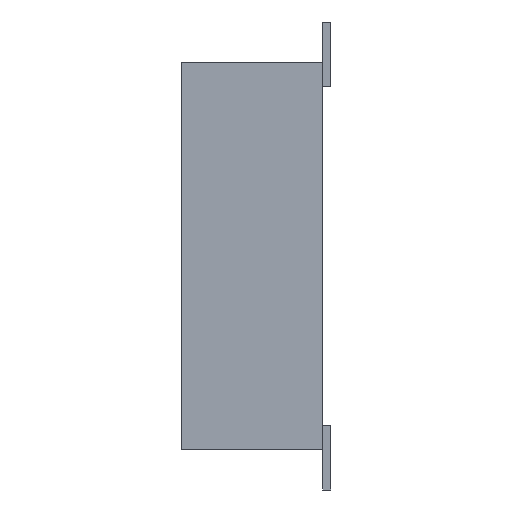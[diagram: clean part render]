
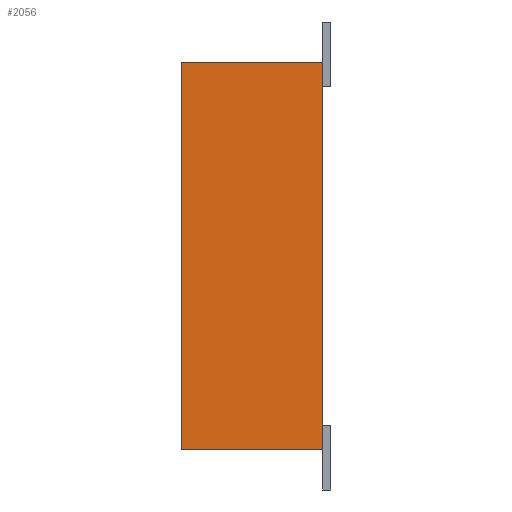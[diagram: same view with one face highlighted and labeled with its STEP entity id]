
A CAD part, left-side view. The second image highlights one B-rep face of the part: STEP entity #2056.
In plain terms, the highlighted planar face has unit normal (-1, 0, 0).
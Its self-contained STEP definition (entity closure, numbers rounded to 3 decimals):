
#322=DIRECTION('',(0.,0.,1.));
#323=VECTOR('',#322,4.8);
#324=CARTESIAN_POINT('',(-4.,0.,-2.4));
#325=LINE('',#324,#323);
#378=DIRECTION('',(0.,1.,0.));
#379=VECTOR('',#378,1.75);
#380=CARTESIAN_POINT('',(-4.,0.,2.4));
#381=LINE('',#380,#379);
#418=DIRECTION('',(0.,1.,0.));
#419=VECTOR('',#418,1.75);
#420=CARTESIAN_POINT('',(-4.,0.,-2.4));
#421=LINE('',#420,#419);
#1266=DIRECTION('',(0.,0.,1.));
#1267=VECTOR('',#1266,4.8);
#1268=CARTESIAN_POINT('',(-4.,1.75,-2.4));
#1269=LINE('',#1268,#1267);
#1334=CARTESIAN_POINT('',(-4.,0.,-2.4));
#1335=CARTESIAN_POINT('',(-4.,0.,2.4));
#1336=VERTEX_POINT('',#1334);
#1337=VERTEX_POINT('',#1335);
#1338=CARTESIAN_POINT('',(-4.,1.75,2.4));
#1340=VERTEX_POINT('',#1338);
#1344=CARTESIAN_POINT('',(-4.,1.75,-2.4));
#1345=VERTEX_POINT('',#1344);
#2043=CARTESIAN_POINT('',(-4.,0.,-2.4));
#2044=DIRECTION('',(-1.,0.,0.));
#2045=DIRECTION('',(0.,0.,1.));
#2046=AXIS2_PLACEMENT_3D('',#2043,#2044,#2045);
#2047=PLANE('',#2046);
#2048=ORIENTED_EDGE('',*,*,#1911,.F.);
#2050=ORIENTED_EDGE('',*,*,#2049,.T.);
#2052=ORIENTED_EDGE('',*,*,#2051,.T.);
#2053=ORIENTED_EDGE('',*,*,#2006,.F.);
#2054=EDGE_LOOP('',(#2048,#2050,#2052,#2053));
#2055=FACE_OUTER_BOUND('',#2054,.F.);
#2056=ADVANCED_FACE('',(#2055),#2047,.T.);
#1911=EDGE_CURVE('',#1336,#1337,#325,.T.);
#2006=EDGE_CURVE('',#1337,#1340,#381,.T.);
#2049=EDGE_CURVE('',#1336,#1345,#421,.T.);
#2051=EDGE_CURVE('',#1345,#1340,#1269,.T.);
